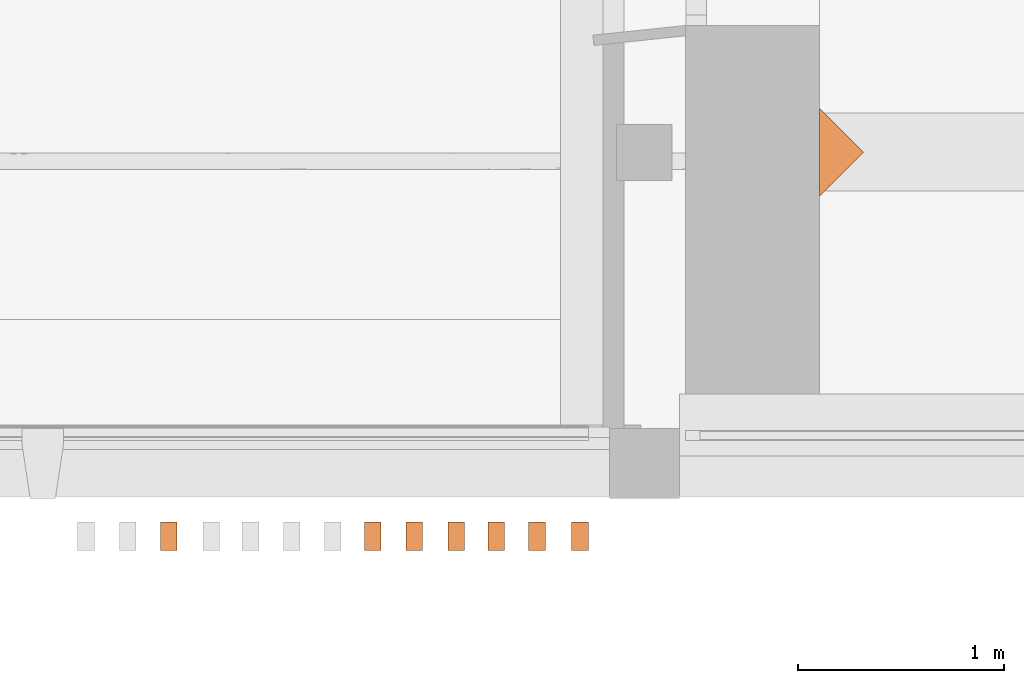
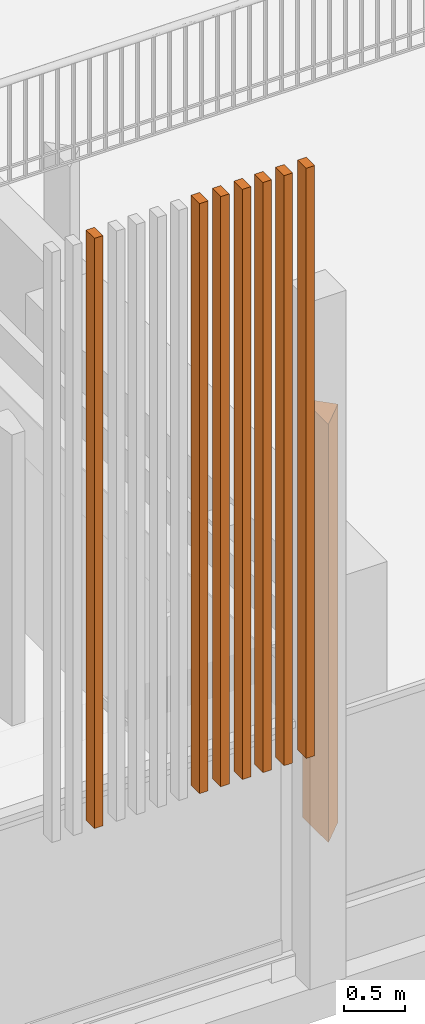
# One storey, part 60 of 65: 8 proxies.
"""IFC4 building model written with IfcOpenShell, lengths in metres."""

import ifcopenshell
import ifcopenshell.guid

model = None  # the IFC model being written
_history = None  # IfcOwnerHistory: only IFC2X3 demands one
_inside = {}  # id of a spatial element -> (the spatial element, [elements in it])
_under = {}  # id of a project, library or spatial element -> (it, [spatial elements below it])
_declared = {}  # id of a project -> (the project, [libraries it declares])
_typed = {}  # id of a type object -> (the type object, [elements of that type])
_made_of = {}  # id of a material, layer set ... -> (it, [elements and type objects made of it])


def new_model(schema):
    """Start an empty IFC model of exactly this schema.

    Asked for "IFC4X3", IfcOpenShell would pick the latest addendum, in which some entities
    have other attributes; the version numbers below select the first issue.
    IFC2X3 requires an IfcOwnerHistory on every rooted entity: one is made here for all.
    """
    global model, _history
    if schema == "IFC4X3":
        model = ifcopenshell.file(schema_version=(4, 3, 0, 0))
    else:
        model = ifcopenshell.file(schema=schema)
    _inside.clear()
    _under.clear()
    _declared.clear()
    _typed.clear()
    _made_of.clear()
    _history = None
    if model.schema == "IFC2X3":
        org = make("IfcOrganization", Name="unknown")
        user = make(
            "IfcPersonAndOrganization",
            ThePerson=make("IfcPerson", FamilyName="unknown"),
            TheOrganization=org,
        )
        app = make(
            "IfcApplication",
            ApplicationDeveloper=org,
            Version="unknown",
            ApplicationFullName="unknown",
            ApplicationIdentifier="unknown",
        )
        _history = make(
            "IfcOwnerHistory",
            OwningUser=user,
            OwningApplication=app,
            ChangeAction="ADDED",
            CreationDate=0,
        )
    return model


def make(cls, **values):
    """One entity of the class cls with the attributes given. An attribute that is None is left unset."""
    return model.create_entity(
        cls, **{name: value for name, value in values.items() if value is not None}
    )


def entity(cls, *values):
    """Any entity or typed value of the class cls, its attributes in the order of the schema. None: left unset."""
    e = model.create_entity(cls)
    for i, value in enumerate(values):
        if value is not None:
            e[i] = value
    return e


def rooted(cls, **values):
    """An entity with a GlobalId (a new one), such as an element, a storey or a relation."""
    return make(cls, GlobalId=ifcopenshell.guid.new(), OwnerHistory=_history, **values)


def si_unit(unit_type, name, prefix=None):
    """IfcSIUnit, for example si_unit("LENGTHUNIT", "METRE", prefix="MILLI")."""
    return make("IfcSIUnit", UnitType=unit_type, Prefix=prefix, Name=name)


def converted_unit(unit_type, name, factor, base, dimensions=None, offset=None):
    """IfcConversionBasedUnit, such as the inch: factor (a typed value) times the base unit."""
    return make(
        "IfcConversionBasedUnit"
        if offset is None
        else "IfcConversionBasedUnitWithOffset",
        ConversionOffset=offset,
        Dimensions=None
        if dimensions is None
        else entity("IfcDimensionalExponents", *dimensions),
        UnitType=unit_type,
        Name=name,
        ConversionFactor=make(
            "IfcMeasureWithUnit", ValueComponent=factor, UnitComponent=base
        ),
    )


def derived_unit(unit_type, elements):
    """IfcDerivedUnit: a product of units, each with its exponent."""
    return make(
        "IfcDerivedUnit",
        Elements=[
            make("IfcDerivedUnitElement", Unit=unit, Exponent=power)
            for unit, power in elements
        ],
        UnitType=unit_type,
    )


def assignment(units):
    """IfcUnitAssignment: the units of a project."""
    return None if units is None else make("IfcUnitAssignment", Units=units)


def point(xyz):
    """IfcCartesianPoint."""
    return None if xyz is None else make("IfcCartesianPoint", Coordinates=xyz)


def direction(xyz):
    """IfcDirection."""
    return None if xyz is None else make("IfcDirection", DirectionRatios=xyz)


def frame(location, z_axis=None, x_axis=None):
    """IfcAxis2Placement3D, a coordinate frame: its origin and axes. An axis left out is left unset."""
    return make(
        "IfcAxis2Placement3D",
        Location=point(location),
        Axis=direction(z_axis),
        RefDirection=direction(x_axis),
    )


def origin():
    """The frame at (0, 0, 0) with its axes left unset."""
    return frame((0.0, 0.0, 0.0))


def place(relative_to, where):
    """IfcLocalPlacement: puts the frame where relative to a parent placement (None: the world)."""
    return make(
        "IfcLocalPlacement", PlacementRelTo=relative_to, RelativePlacement=where
    )


def context(
    kind, dimensions, precision=None, world=None, true_north=None, identifier=None
):
    """IfcGeometricRepresentationContext, for example the 3D "Model" context."""
    return make(
        "IfcGeometricRepresentationContext",
        ContextIdentifier=identifier,
        ContextType=kind,
        CoordinateSpaceDimension=dimensions,
        Precision=precision,
        WorldCoordinateSystem=world,
        TrueNorth=true_north,
    )


def subcontext(parent, identifier, kind, view, scale=None):
    """IfcGeometricRepresentationSubContext, for example "Body" below "Model"."""
    return make(
        "IfcGeometricRepresentationSubContext",
        ContextIdentifier=identifier,
        ContextType=kind,
        ParentContext=parent,
        TargetScale=scale,
        TargetView=view,
    )


def project(units=None, contexts=None):
    """IfcProject with its units and contexts."""
    return rooted(
        "IfcProject",
        Name="project",
        RepresentationContexts=contexts,
        UnitsInContext=assignment(units),
    )


def spatial(cls, under=None, at=None, **own):
    """A site, building, storey or space (cls), placed at a placement, below another one or the project."""
    s = rooted(cls, ObjectPlacement=at, **own)
    if under is not None:
        _under.setdefault(under.id(), (under, []))[1].append(s)
    return s


def point_list(points):
    """IfcCartesianPointList2D or 3D."""
    cls = (
        "IfcCartesianPointList2D" if len(points[0]) == 2 else "IfcCartesianPointList3D"
    )
    return make(cls, CoordList=points)


def indexed_curve(points, segments=None, self_intersect=None):
    """IfcIndexedPolyCurve: lines and arcs through numbered points (the first is 1)."""
    return make(
        "IfcIndexedPolyCurve",
        Points=point_list(points),
        Segments=segments,
        SelfIntersect=self_intersect,
    )


def outline(outer, holes=None, kind="AREA"):
    """IfcArbitraryClosedProfileDef: a profile drawn as a closed curve; with holes, ...WithVoids."""
    if holes is None:
        return make("IfcArbitraryClosedProfileDef", ProfileType=kind, OuterCurve=outer)
    return make(
        "IfcArbitraryProfileDefWithVoids",
        ProfileType=kind,
        OuterCurve=outer,
        InnerCurves=holes,
    )


def extrude(swept, where, along, depth):
    """IfcExtrudedAreaSolid: the profile swept, set in the frame where, extruded along a direction by depth."""
    return make(
        "IfcExtrudedAreaSolid",
        SweptArea=swept,
        Position=where,
        ExtrudedDirection=direction(along),
        Depth=depth,
    )


def shape(context_of_items, identifier, shape_type, items):
    """IfcShapeRepresentation: the items that make up one representation, for example the "Body"."""
    return make(
        "IfcShapeRepresentation",
        ContextOfItems=context_of_items,
        RepresentationIdentifier=identifier,
        RepresentationType=shape_type,
        Items=items,
    )


def source(mapping_origin, context_of_items, identifier, shape_type, items):
    """IfcRepresentationMap: a shape defined once, which mapped items show again and again."""
    return make(
        "IfcRepresentationMap",
        MappingOrigin=mapping_origin,
        MappedRepresentation=shape(context_of_items, identifier, shape_type, items),
    )


def transform(
    local_origin,
    x_axis=None,
    y_axis=None,
    z_axis=None,
    scale=None,
    scale2=None,
    scale3=None,
    uniform=True,
):
    """IfcCartesianTransformationOperator3D, or its non-uniform kind. x_axis, y_axis, z_axis: its Axis1, 2, 3."""
    if uniform:
        return make(
            "IfcCartesianTransformationOperator3D",
            Axis1=direction(x_axis),
            Axis2=direction(y_axis),
            LocalOrigin=point(local_origin),
            Scale=scale,
            Axis3=direction(z_axis),
        )
    return make(
        "IfcCartesianTransformationOperator3DnonUniform",
        Axis1=direction(x_axis),
        Axis2=direction(y_axis),
        LocalOrigin=point(local_origin),
        Scale=scale,
        Axis3=direction(z_axis),
        Scale2=scale2,
        Scale3=scale3,
    )


def mapped(mapping_source, mapping_target):
    """IfcMappedItem: shows the shape of a source again, moved by a transform."""
    return make(
        "IfcMappedItem", MappingSource=mapping_source, MappingTarget=mapping_target
    )


def material(Name=None, Category=None):
    """IfcMaterial."""
    return make("IfcMaterial", Name=Name, Category=Category)


def made_of(thing, what):
    """Note that an element or type object is made of a material, layer set ...; save() writes the relation."""
    if what is not None:
        _made_of.setdefault(what.id(), (what, []))[1].append(thing)
    return thing


def type_object(cls, material=None, **own):
    """A type object (cls), such as IfcWallType, which elements share."""
    return made_of(rooted(cls, **own), material)


def type_shapes(of_type, sources):
    """Give a type object the sources (RepresentationMaps) that its elements show as mapped items."""
    of_type.RepresentationMaps = sources


def element(
    cls,
    number,
    at=None,
    inside=None,
    cuts=None,
    type_object=None,
    material=None,
    context=None,
    identifier="Body",
    shape_type=None,
    held_by="IfcProductDefinitionShape",
    body=None,
    shapes=None,
    **own,
):
    """One element of the class cls, such as IfcWall. Its Tag is "e" and its number.

    at: its placement. inside: the storey or other place that contains it. cuts: it is an
    opening in that element (IfcRelVoidsElement). A single representation is given by context,
    identifier, shape_type and body (its items); several are given by shapes. held_by: the class
    of the entity that holds the representations. save() writes the other relations.
    """
    e = rooted(cls, Tag="e%d" % number, ObjectPlacement=at, **own)
    if body is not None:
        shapes = [shape(context, identifier, shape_type, body)]
    if shapes is not None:
        e.Representation = make(held_by, Representations=shapes)
    if inside is not None:
        _inside.setdefault(inside.id(), (inside, []))[1].append(e)
    if cuts is not None:
        rooted(
            "IfcRelVoidsElement", RelatingBuildingElement=cuts, RelatedOpeningElement=e
        )
    if type_object is not None:
        _typed.setdefault(type_object.id(), (type_object, []))[1].append(e)
    return made_of(e, material)


def aggregate(whole, parts):
    """IfcRelAggregates: a whole, such as a stair, and the parts it consists of."""
    return rooted("IfcRelAggregates", RelatingObject=whole, RelatedObjects=parts)


def save(model, path):
    """Write the relations noted so far, then the file.

    IfcRelAggregates (storeys below a building ...), IfcRelContainedInSpatialStructure (elements
    in a storey), IfcRelDefinesByType, IfcRelAssociatesMaterial and IfcRelDeclares: one each for
    every whole, place, type object, material and project.
    """
    for whole, parts in _under.values():
        aggregate(whole, parts)
    for where, things in _inside.values():
        rooted(
            "IfcRelContainedInSpatialStructure",
            RelatedElements=things,
            RelatingStructure=where,
        )
    for kind, things in _typed.values():
        rooted("IfcRelDefinesByType", RelatedObjects=things, RelatingType=kind)
    for what, things in _made_of.values():
        rooted("IfcRelAssociatesMaterial", RelatedObjects=things, RelatingMaterial=what)
    for by, libraries in _declared.values():
        rooted("IfcRelDeclares", RelatingContext=by, RelatedDefinitions=libraries)
    model.write(path)


model = new_model("IFC4")

# Units and contexts
model_context = context("Model", 3, precision=1e-05, world=origin(), true_north=direction((6.12303176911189e-17, 1.0)))
body_context = subcontext(model_context, "Body", "Model", "MODEL_VIEW")
ifc_project = project(units=[si_unit("LENGTHUNIT", "METRE"), si_unit("AREAUNIT", "SQUARE_METRE"), si_unit("VOLUMEUNIT", "CUBIC_METRE"), converted_unit("PLANEANGLEUNIT", "DEGREE", entity("IfcRatioMeasure", 0.0174532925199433), si_unit("PLANEANGLEUNIT", "RADIAN"), dimensions=[0, 0, 0, 0, 0, 0, 0]), si_unit("MASSUNIT", "GRAM", prefix="KILO"), derived_unit("MASSDENSITYUNIT", [(si_unit("MASSUNIT", "GRAM", prefix="KILO"), 1), (si_unit("LENGTHUNIT", "METRE"), -3)]), derived_unit("MOMENTOFINERTIAUNIT", [(si_unit("LENGTHUNIT", "METRE"), 4)]), si_unit("TIMEUNIT", "SECOND"), si_unit("FREQUENCYUNIT", "HERTZ"), si_unit("THERMODYNAMICTEMPERATUREUNIT", "DEGREE_CELSIUS"), derived_unit("THERMALTRANSMITTANCEUNIT", [(si_unit("MASSUNIT", "GRAM", prefix="KILO"), 1), (si_unit("THERMODYNAMICTEMPERATUREUNIT", "KELVIN"), -1), (si_unit("TIMEUNIT", "SECOND"), -3)]), derived_unit("VOLUMETRICFLOWRATEUNIT", [(si_unit("LENGTHUNIT", "METRE"), 3), (si_unit("TIMEUNIT", "SECOND"), -1)]), si_unit("ELECTRICCURRENTUNIT", "AMPERE"), si_unit("ELECTRICVOLTAGEUNIT", "VOLT"), si_unit("POWERUNIT", "WATT"), si_unit("FORCEUNIT", "NEWTON", prefix="KILO"), si_unit("ILLUMINANCEUNIT", "LUX"), si_unit("LUMINOUSFLUXUNIT", "LUMEN"), si_unit("LUMINOUSINTENSITYUNIT", "CANDELA"), derived_unit("USERDEFINED", [(si_unit("MASSUNIT", "GRAM", prefix="KILO"), -1), (si_unit("LENGTHUNIT", "METRE"), -2), (si_unit("TIMEUNIT", "SECOND"), 3), (si_unit("LUMINOUSFLUXUNIT", "LUMEN"), 1)]), derived_unit("LINEARVELOCITYUNIT", [(si_unit("LENGTHUNIT", "METRE"), 1), (si_unit("TIMEUNIT", "SECOND"), -1)]), si_unit("PRESSUREUNIT", "PASCAL"), derived_unit("USERDEFINED", [(si_unit("LENGTHUNIT", "METRE"), -2), (si_unit("MASSUNIT", "GRAM", prefix="KILO"), 1), (si_unit("TIMEUNIT", "SECOND"), -2)]), derived_unit("LINEARFORCEUNIT", [(si_unit("MASSUNIT", "GRAM", prefix="KILO"), 1), (si_unit("LENGTHUNIT", "METRE"), 1), (si_unit("TIMEUNIT", "SECOND"), -2), (si_unit("LENGTHUNIT", "METRE"), -1)]), derived_unit("PLANARFORCEUNIT", [(si_unit("MASSUNIT", "GRAM", prefix="KILO"), 1), (si_unit("LENGTHUNIT", "METRE"), 1), (si_unit("TIMEUNIT", "SECOND"), -2), (si_unit("LENGTHUNIT", "METRE"), -2)])], contexts=[model_context])

# Site, building, storey
site_placement = place(None, origin())
site = spatial("IfcSite", under=ifc_project, at=site_placement, Name="Default", CompositionType="ELEMENT")
building_placement = place(site_placement, origin())
building = spatial("IfcBuilding", under=site, at=building_placement, Name="HOTEL CONSULAIRE BOULOGNE SUR MER", CompositionType="ELEMENT")
storey_placement = place(building_placement, origin())
storey = spatial("IfcBuildingStorey", under=building, at=storey_placement, Name="Niveau 0", CompositionType="ELEMENT", Elevation=1.31981936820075e-13)

# Proxies
ifc_material_1 = material(Name="Finition Peinture - Blanc satiné", Category="Peinture")
building_element_proxy_type_1 = type_object("IfcBuildingElementProxyType", Name="décoration9:décoration", PredefinedType="NOTDEFINED", material=ifc_material_1)
shared_shape_1 = source(origin(), body_context, "Body", "SweptSolid", [
    extrude(outline(indexed_curve([(-0.200958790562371, -0.10047939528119), (0.10047939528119, -0.10047939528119), (0.100479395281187, 0.200958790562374), (-0.200958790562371, -0.10047939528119)], self_intersect=False)), frame((0.0710496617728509, 0.213148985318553, 0.0), z_axis=(0.0, 0.0, 1.0), x_axis=(0.707106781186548, 0.707106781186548, 0.0)), (0.0, 0.0, 1.0), 4.16807531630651),
])
type_shapes(building_element_proxy_type_1, [shared_shape_1])
proxy_1_placement = place(storey_placement, frame((12.3264778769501, -28.4287140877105, 0.0)))
element("IfcBuildingElementProxy", 1, at=proxy_1_placement, inside=storey, type_object=building_element_proxy_type_1, material=ifc_material_1, Name="décoration9:décoration", ObjectType="décoration9:décoration", PredefinedType="NOTDEFINED", context=body_context, shape_type="MappedRepresentation", body=[
    mapped(shared_shape_1, transform((0.0, 0.0, 0.0), scale=1.0)),
])
ifc_material_2 = material(Name="alu finifion bleu")
building_element_proxy_type_2 = type_object("IfcBuildingElementProxyType", Name="Elements de façade:Elements de façade", PredefinedType="NOTDEFINED", material=ifc_material_2)
shared_shape_2 = source(origin(), body_context, "Body", "SweptSolid", [
    extrude(outline(indexed_curve([(-0.068901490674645, -0.0402906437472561), (0.0689014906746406, -0.0402906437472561), (0.0689014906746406, 0.0402906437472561), (-0.068901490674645, 0.0402906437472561), (-0.068901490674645, -0.0402906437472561)], self_intersect=False)), frame((0.0402906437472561, 0.0689014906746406, 0.0), z_axis=(0.0, 0.0, 1.0), x_axis=(0.0, 1.0, 0.0)), (0.0, 0.0, 1.0), 5.87944355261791),
])
type_shapes(building_element_proxy_type_2, [shared_shape_2])
proxy_2_placement = place(storey_placement, frame((11.1245010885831, -30.1470920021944, 2.30326010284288)))
element("IfcBuildingElementProxy", 2, at=proxy_2_placement, inside=storey, type_object=building_element_proxy_type_2, material=ifc_material_2, Name="Elements de façade:Elements de façade", ObjectType="Elements de façade:Elements de façade", PredefinedType="NOTDEFINED", context=body_context, shape_type="MappedRepresentation", body=[
    mapped(shared_shape_2, transform((0.0, 0.0, 0.0), scale=1.0)),
])
building_element_proxy_type_3 = type_object("IfcBuildingElementProxyType", Name="Elements de façade1:Elements de façade", PredefinedType="NOTDEFINED", material=ifc_material_2)
shared_shape_3 = source(origin(), body_context, "Body", "SweptSolid", [
    extrude(outline(indexed_curve([(-0.068901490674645, -0.0402906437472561), (0.0689014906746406, -0.0402906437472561), (0.0689014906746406, 0.0402906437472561), (-0.068901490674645, 0.0402906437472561), (-0.068901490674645, -0.0402906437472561)], self_intersect=False)), frame((0.0402906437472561, 0.0689014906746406, 0.0), z_axis=(0.0, 0.0, 1.0), x_axis=(0.0, 1.0, 0.0)), (0.0, 0.0, 1.0), 5.87944355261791),
])
type_shapes(building_element_proxy_type_3, [shared_shape_3])
proxy_3_placement = place(storey_placement, frame((10.9159630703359, -30.1470920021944, 2.30326010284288)))
element("IfcBuildingElementProxy", 3, at=proxy_3_placement, inside=storey, type_object=building_element_proxy_type_3, material=ifc_material_2, Name="Elements de façade1:Elements de façade", ObjectType="Elements de façade1:Elements de façade", PredefinedType="NOTDEFINED", context=body_context, shape_type="MappedRepresentation", body=[
    mapped(shared_shape_3, transform((0.0, 0.0, 0.0), scale=1.0)),
])
building_element_proxy_type_4 = type_object("IfcBuildingElementProxyType", Name="Elements de façade2:Elements de façade", PredefinedType="NOTDEFINED", material=ifc_material_2)
shared_shape_4 = source(origin(), body_context, "Body", "SweptSolid", [
    extrude(outline(indexed_curve([(-0.068901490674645, -0.0402906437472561), (0.0689014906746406, -0.0402906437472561), (0.0689014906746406, 0.0402906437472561), (-0.068901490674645, 0.0402906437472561), (-0.068901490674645, -0.0402906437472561)], self_intersect=False)), frame((0.0402906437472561, 0.0689014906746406, 0.0), z_axis=(0.0, 0.0, 1.0), x_axis=(0.0, 1.0, 0.0)), (0.0, 0.0, 1.0), 5.87944355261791),
])
type_shapes(building_element_proxy_type_4, [shared_shape_4])
proxy_4_placement = place(storey_placement, frame((10.7173506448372, -30.1470920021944, 2.30326010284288)))
element("IfcBuildingElementProxy", 4, at=proxy_4_placement, inside=storey, type_object=building_element_proxy_type_4, material=ifc_material_2, Name="Elements de façade2:Elements de façade", ObjectType="Elements de façade2:Elements de façade", PredefinedType="NOTDEFINED", context=body_context, shape_type="MappedRepresentation", body=[
    mapped(shared_shape_4, transform((0.0, 0.0, 0.0), scale=1.0)),
])
building_element_proxy_type_5 = type_object("IfcBuildingElementProxyType", Name="Elements de façade3:Elements de façade", PredefinedType="NOTDEFINED", material=ifc_material_2)
shared_shape_5 = source(origin(), body_context, "Body", "SweptSolid", [
    extrude(outline(indexed_curve([(-0.068901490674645, -0.0402906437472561), (0.0689014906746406, -0.0402906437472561), (0.0689014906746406, 0.0402906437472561), (-0.068901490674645, 0.0402906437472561), (-0.068901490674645, -0.0402906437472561)], self_intersect=False)), frame((0.0402906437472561, 0.0689014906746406, 0.0), z_axis=(0.0, 0.0, 1.0), x_axis=(0.0, 1.0, 0.0)), (0.0, 0.0, 1.0), 5.87944355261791),
])
type_shapes(building_element_proxy_type_5, [shared_shape_5])
proxy_5_placement = place(storey_placement, frame((10.5235838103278, -30.1470920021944, 2.30326010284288)))
element("IfcBuildingElementProxy", 5, at=proxy_5_placement, inside=storey, type_object=building_element_proxy_type_5, material=ifc_material_2, Name="Elements de façade3:Elements de façade", ObjectType="Elements de façade3:Elements de façade", PredefinedType="NOTDEFINED", context=body_context, shape_type="MappedRepresentation", body=[
    mapped(shared_shape_5, transform((0.0, 0.0, 0.0), scale=1.0)),
])
building_element_proxy_type_6 = type_object("IfcBuildingElementProxyType", Name="Elements de façade4:Elements de façade", PredefinedType="NOTDEFINED", material=ifc_material_2)
shared_shape_6 = source(origin(), body_context, "Body", "SweptSolid", [
    extrude(outline(indexed_curve([(-0.068901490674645, -0.0402906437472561), (0.0689014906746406, -0.0402906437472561), (0.0689014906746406, 0.0402906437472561), (-0.068901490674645, 0.0402906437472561), (-0.068901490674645, -0.0402906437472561)], self_intersect=False)), frame((0.0402906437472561, 0.0689014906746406, 0.0), z_axis=(0.0, 0.0, 1.0), x_axis=(0.0, 1.0, 0.0)), (0.0, 0.0, 1.0), 5.87944355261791),
])
type_shapes(building_element_proxy_type_6, [shared_shape_6])
proxy_6_placement = place(storey_placement, frame((10.3198110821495, -30.1470920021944, 2.30326010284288)))
element("IfcBuildingElementProxy", 6, at=proxy_6_placement, inside=storey, type_object=building_element_proxy_type_6, material=ifc_material_2, Name="Elements de façade4:Elements de façade", ObjectType="Elements de façade4:Elements de façade", PredefinedType="NOTDEFINED", context=body_context, shape_type="MappedRepresentation", body=[
    mapped(shared_shape_6, transform((0.0, 0.0, 0.0), scale=1.0)),
])
building_element_proxy_type_7 = type_object("IfcBuildingElementProxyType", Name="Elements de façade5:Elements de façade", PredefinedType="NOTDEFINED", material=ifc_material_2)
shared_shape_7 = source(origin(), body_context, "Body", "SweptSolid", [
    extrude(outline(indexed_curve([(-0.068901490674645, -0.0402906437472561), (0.0689014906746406, -0.0402906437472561), (0.0689014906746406, 0.0402906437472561), (-0.068901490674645, 0.0402906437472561), (-0.068901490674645, -0.0402906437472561)], self_intersect=False)), frame((0.0402906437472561, 0.0689014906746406, 0.0), z_axis=(0.0, 0.0, 1.0), x_axis=(0.0, 1.0, 0.0)), (0.0, 0.0, 1.0), 5.87944355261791),
])
type_shapes(building_element_proxy_type_7, [shared_shape_7])
proxy_7_placement = place(storey_placement, frame((10.1187442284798, -30.1470920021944, 2.30326010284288)))
element("IfcBuildingElementProxy", 7, at=proxy_7_placement, inside=storey, type_object=building_element_proxy_type_7, material=ifc_material_2, Name="Elements de façade5:Elements de façade", ObjectType="Elements de façade5:Elements de façade", PredefinedType="NOTDEFINED", context=body_context, shape_type="MappedRepresentation", body=[
    mapped(shared_shape_7, transform((0.0, 0.0, 0.0), scale=1.0)),
])
building_element_proxy_type_8 = type_object("IfcBuildingElementProxyType", Name="Elements de façade10:Elements de façade", PredefinedType="NOTDEFINED", material=ifc_material_2)
shared_shape_8 = source(origin(), body_context, "Body", "SweptSolid", [
    extrude(outline(indexed_curve([(-0.068901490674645, -0.0402906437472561), (0.0689014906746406, -0.0402906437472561), (0.0689014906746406, 0.0402906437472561), (-0.068901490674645, 0.0402906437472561), (-0.068901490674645, -0.0402906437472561)], self_intersect=False)), frame((0.0402906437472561, 0.0689014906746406, 0.0), z_axis=(0.0, 0.0, 1.0), x_axis=(0.0, 1.0, 0.0)), (0.0, 0.0, 1.0), 5.87944355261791),
])
type_shapes(building_element_proxy_type_8, [shared_shape_8])
proxy_8_placement = place(storey_placement, frame((9.13002426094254, -30.1470920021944, 2.30326010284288)))
element("IfcBuildingElementProxy", 8, at=proxy_8_placement, inside=storey, type_object=building_element_proxy_type_8, material=ifc_material_2, Name="Elements de façade10:Elements de façade", ObjectType="Elements de façade10:Elements de façade", PredefinedType="NOTDEFINED", context=body_context, shape_type="MappedRepresentation", body=[
    mapped(shared_shape_8, transform((0.0, 0.0, 0.0), scale=1.0)),
])

save(model, "model.ifc")
